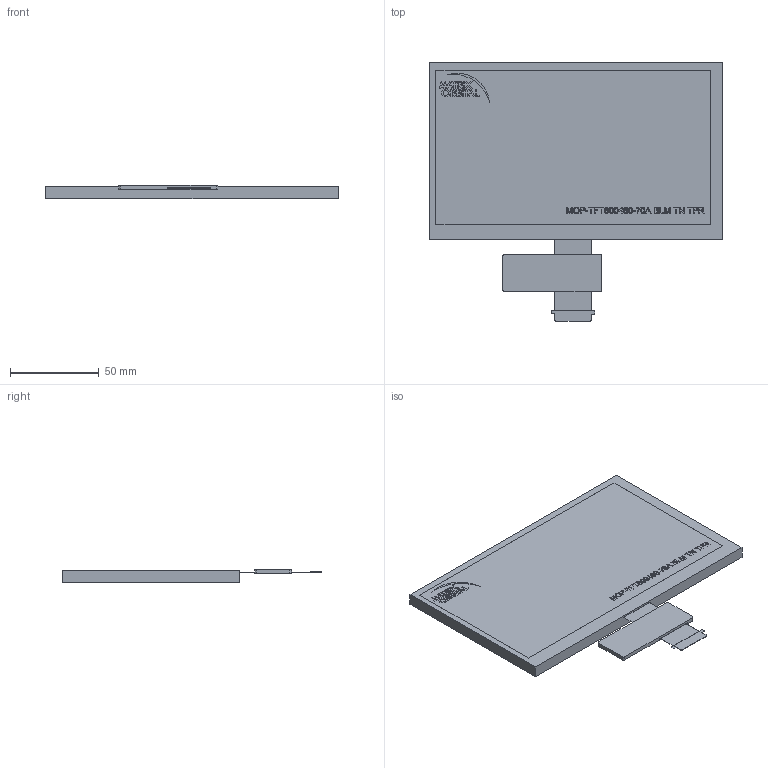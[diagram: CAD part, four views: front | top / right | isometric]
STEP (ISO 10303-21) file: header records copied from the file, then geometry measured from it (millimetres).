
FILE_DESCRIPTION (( 'STEP AP214' ), '1' );
FILE_NAME ('MOP-TFT800480-70A BLM TN TPR.STEP', '2025-08-25T19:03:09', ( '' ), ( '' ), 'SwSTEP 2.0', 'SolidWorks 2021', '' );
FILE_SCHEMA (( 'AUTOMOTIVE_DESIGN' ));
Length unit declared in the file: millimetre
Products named in the file (1): MOP-TFT800480-70A BLM TN TPR
Bounding box: 165 x 146.17 x 7.34 mm (x, y, z)
Volume: 114585.7 mm3; surface area: 40603 mm2
Topology: 3 solids, 3 shells, 591 faces, 1575 edges, 1050 vertices
Faces by surface type: plane 454, bspline 119, cylinder 18
Entity records: 25421 total; most frequent: CARTESIAN_POINT 10712, ORIENTED_EDGE 3150, DIRECTION 2319, EDGE_CURVE 1575, LINE 1301, VECTOR 1301, VERTEX_POINT 1050, EDGE_LOOP 651
